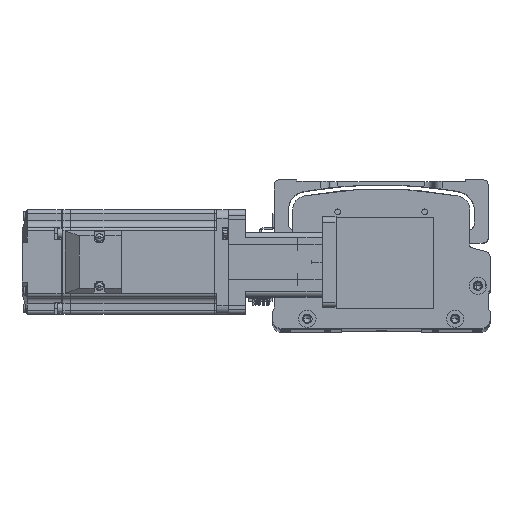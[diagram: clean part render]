
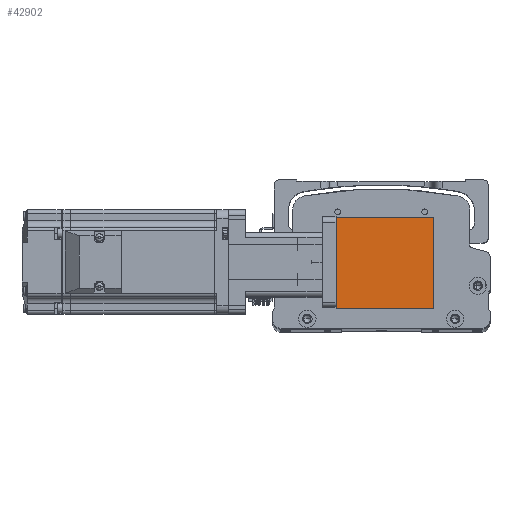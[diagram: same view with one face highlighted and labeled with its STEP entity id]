
A CAD part, top view. The second image highlights one B-rep face of the part: STEP entity #42902.
In plain terms, the highlighted planar face has unit normal (0, 0, 1) as drawn and (-1, 0, 0) by its records, which use the part's own axes.
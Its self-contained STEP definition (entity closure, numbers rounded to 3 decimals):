
#345 = DIRECTION ( 'NONE',  ( 0., 0., -1. ) ) ;
#1738 = EDGE_CURVE ( 'NONE', #12268, #25675, #25307, .T. ) ;
#4105 = VERTEX_POINT ( 'NONE', #4692 ) ;
#4692 = CARTESIAN_POINT ( 'NONE',  ( -31.5, 26., 56. ) ) ;
#4910 = PLANE ( 'NONE',  #13812 ) ;
#5677 = EDGE_LOOP ( 'NONE', ( #54385, #56396, #50433, #39570 ) ) ;
#5906 = DIRECTION ( 'NONE',  ( 0., -1., 0. ) ) ;
#10755 = CARTESIAN_POINT ( 'NONE',  ( -31.5, -26., 56. ) ) ;
#11092 = CARTESIAN_POINT ( 'NONE',  ( -31.5, 26., 56. ) ) ;
#12268 = VERTEX_POINT ( 'NONE', #56409 ) ;
#13812 = AXIS2_PLACEMENT_3D ( 'NONE', #57637, #28983, #345 ) ;
#14004 = VECTOR ( 'NONE', #5906, 1000. ) ;
#14302 = EDGE_CURVE ( 'NONE', #60420, #25675, #41356, .T. ) ;
#14401 = VECTOR ( 'NONE', #26918, 1000. ) ;
#15871 = DIRECTION ( 'NONE',  ( 0., 0., -1. ) ) ;
#16727 = CARTESIAN_POINT ( 'NONE',  ( -31.5, -26., 0. ) ) ;
#17209 = EDGE_CURVE ( 'NONE', #4105, #60420, #53697, .T. ) ;
#20981 = EDGE_CURVE ( 'NONE', #4105, #12268, #41049, .T. ) ;
#25307 = LINE ( 'NONE', #54243, #49267 ) ;
#25675 = VERTEX_POINT ( 'NONE', #16727 ) ;
#26832 = VECTOR ( 'NONE', #15871, 1000. ) ;
#26918 = DIRECTION ( 'NONE',  ( 0., 0., -1. ) ) ;
#28983 = DIRECTION ( 'NONE',  ( 1., 0., 0. ) ) ;
#29031 = CARTESIAN_POINT ( 'NONE',  ( -31.5, -26., 56. ) ) ;
#39570 = ORIENTED_EDGE ( 'NONE', *, *, #20981, .T. ) ;
#41049 = LINE ( 'NONE', #11092, #26832 ) ;
#41356 = LINE ( 'NONE', #50767, #14401 ) ;
#42902 = ADVANCED_FACE ( 'NONE', ( #49447 ), #4910, .F. ) ;
#49267 = VECTOR ( 'NONE', #58819, 1000. ) ;
#49447 = FACE_OUTER_BOUND ( 'NONE', #5677, .T. ) ;
#50433 = ORIENTED_EDGE ( 'NONE', *, *, #17209, .F. ) ;
#50767 = CARTESIAN_POINT ( 'NONE',  ( -31.5, -26., 56. ) ) ;
#53697 = LINE ( 'NONE', #10755, #14004 ) ;
#54243 = CARTESIAN_POINT ( 'NONE',  ( -31.5, -26., 0. ) ) ;
#54385 = ORIENTED_EDGE ( 'NONE', *, *, #1738, .T. ) ;
#56396 = ORIENTED_EDGE ( 'NONE', *, *, #14302, .F. ) ;
#56409 = CARTESIAN_POINT ( 'NONE',  ( -31.5, 26., 0. ) ) ;
#57637 = CARTESIAN_POINT ( 'NONE',  ( -31.5, -26., 56. ) ) ;
#58819 = DIRECTION ( 'NONE',  ( 0., -1., 0. ) ) ;
#60420 = VERTEX_POINT ( 'NONE', #29031 ) ;
